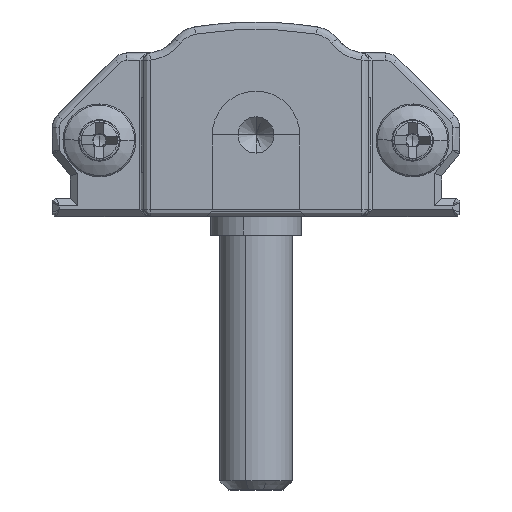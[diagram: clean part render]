
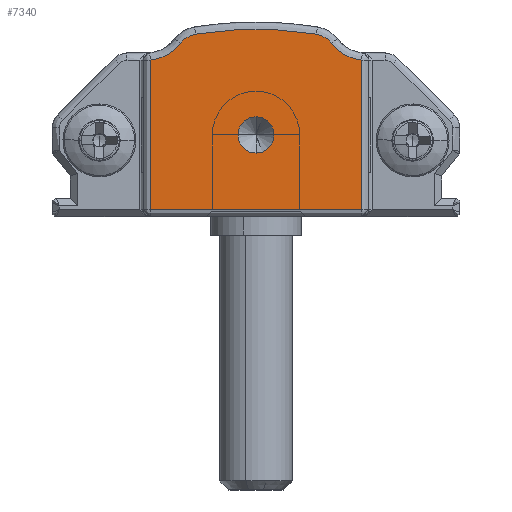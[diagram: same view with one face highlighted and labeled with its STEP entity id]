
A CAD part, front view. The second image highlights one B-rep face of the part: STEP entity #7340.
In plain terms, the highlighted planar face has unit normal (0, -1, 0).
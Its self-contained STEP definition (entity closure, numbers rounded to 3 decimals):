
#203 = CARTESIAN_POINT ( 'NONE',  ( 17., -15., 0.4 ) ) ;
#381 = AXIS2_PLACEMENT_3D ( 'NONE', #29165, #32129, #11331 ) ;
#566 = AXIS2_PLACEMENT_3D ( 'NONE', #21783, #16740, #19254 ) ;
#743 = AXIS2_PLACEMENT_3D ( 'NONE', #32193, #27082, #22465 ) ;
#1335 = VERTEX_POINT ( 'NONE', #25798 ) ;
#2115 = AXIS2_PLACEMENT_3D ( 'NONE', #8827, #3222, #24204 ) ;
#2383 = DIRECTION ( 'NONE',  ( 1., 0., 0. ) ) ;
#3222 = DIRECTION ( 'NONE',  ( 0., -1., 0. ) ) ;
#3618 = CARTESIAN_POINT ( 'NONE',  ( 5.4, -15., 0.4 ) ) ;
#3992 = DIRECTION ( 'NONE',  ( 0., 0., -1. ) ) ;
#4543 = ORIENTED_EDGE ( 'NONE', *, *, #23631, .T. ) ;
#5129 = VERTEX_POINT ( 'NONE', #26048 ) ;
#5169 = ORIENTED_EDGE ( 'NONE', *, *, #26118, .T. ) ;
#5241 = VERTEX_POINT ( 'NONE', #29507 ) ;
#5630 = VERTEX_POINT ( 'NONE', #25309 ) ;
#5657 = VERTEX_POINT ( 'NONE', #12761 ) ;
#6067 = CARTESIAN_POINT ( 'NONE',  ( 7.892, -15., 10.034 ) ) ;
#6555 = PLANE ( 'NONE',  #566 ) ;
#6722 = DIRECTION ( 'NONE',  ( 0., 0., -1. ) ) ;
#7339 = VERTEX_POINT ( 'NONE', #18949 ) ;
#7340 = ADVANCED_FACE ( 'NONE', ( #24261, #21941 ), #6555, .T. ) ;
#7541 = EDGE_LOOP ( 'NONE', ( #31732, #5169, #29491, #4543, #13462, #18692, #26622, #23929 ) ) ;
#8522 = CARTESIAN_POINT ( 'NONE',  ( 17., -15., 8.612 ) ) ;
#8827 = CARTESIAN_POINT ( 'NONE',  ( 8.1, -15., 8.75 ) ) ;
#10242 = AXIS2_PLACEMENT_3D ( 'NONE', #32141, #31820, #19574 ) ;
#10290 = EDGE_CURVE ( 'NONE', #14233, #1335, #24422, .T. ) ;
#10421 = CIRCLE ( 'NONE', #381, 2.4 ) ;
#10887 = LINE ( 'NONE', #3618, #24278 ) ;
#11179 = EDGE_LOOP ( 'NONE', ( #12784, #22969 ) ) ;
#11331 = DIRECTION ( 'NONE',  ( 0., 0., -1. ) ) ;
#11592 = EDGE_CURVE ( 'NONE', #29298, #28994, #17093, .T. ) ;
#11604 = VERTEX_POINT ( 'NONE', #32338 ) ;
#12017 = VECTOR ( 'NONE', #28694, 1000. ) ;
#12761 = CARTESIAN_POINT ( 'NONE',  ( 17., -15., 0.4 ) ) ;
#12784 = ORIENTED_EDGE ( 'NONE', *, *, #29772, .F. ) ;
#13462 = ORIENTED_EDGE ( 'NONE', *, *, #10290, .T. ) ;
#14233 = VERTEX_POINT ( 'NONE', #6067 ) ;
#14609 = CARTESIAN_POINT ( 'NONE',  ( 14.3, -15., 8.75 ) ) ;
#15033 = CIRCLE ( 'NONE', #743, 1. ) ;
#16012 = AXIS2_PLACEMENT_3D ( 'NONE', #30033, #17412, #6722 ) ;
#16740 = DIRECTION ( 'NONE',  ( 0., -1., 0. ) ) ;
#17051 = EDGE_CURVE ( 'NONE', #5129, #7339, #10887, .T. ) ;
#17093 = CIRCLE ( 'NONE', #16012, 1. ) ;
#17339 = EDGE_CURVE ( 'NONE', #5657, #5241, #28537, .T. ) ;
#17412 = DIRECTION ( 'NONE',  ( 0., -1., 0. ) ) ;
#18173 = CARTESIAN_POINT ( 'NONE',  ( 5.162, -15., 11. ) ) ;
#18692 = ORIENTED_EDGE ( 'NONE', *, *, #29637, .T. ) ;
#18949 = CARTESIAN_POINT ( 'NONE',  ( 5.4, -15., 0.4 ) ) ;
#19254 = DIRECTION ( 'NONE',  ( 0., 0., -1. ) ) ;
#19574 = DIRECTION ( 'NONE',  ( 0., 0., -1. ) ) ;
#20107 = VECTOR ( 'NONE', #2383, 1000. ) ;
#21110 = DIRECTION ( 'NONE',  ( 0., 0., -1. ) ) ;
#21435 = AXIS2_PLACEMENT_3D ( 'NONE', #18173, #28298, #32599 ) ;
#21783 = CARTESIAN_POINT ( 'NONE',  ( 22.15, -15., 3.606 ) ) ;
#21941 = FACE_BOUND ( 'NONE', #11179, .T. ) ;
#22465 = DIRECTION ( 'NONE',  ( 0., 0., -1. ) ) ;
#22523 = CIRCLE ( 'NONE', #21435, 2.4 ) ;
#22969 = ORIENTED_EDGE ( 'NONE', *, *, #11592, .F. ) ;
#23391 = CARTESIAN_POINT ( 'NONE',  ( 11.2, -15., 5.5 ) ) ;
#23428 = CARTESIAN_POINT ( 'NONE',  ( 11.2, -15., 3.5 ) ) ;
#23593 = AXIS2_PLACEMENT_3D ( 'NONE', #14609, #24496, #3992 ) ;
#23631 = EDGE_CURVE ( 'NONE', #11604, #14233, #24651, .T. ) ;
#23929 = ORIENTED_EDGE ( 'NONE', *, *, #32695, .T. ) ;
#24204 = DIRECTION ( 'NONE',  ( 0., 0., -1. ) ) ;
#24261 = FACE_OUTER_BOUND ( 'NONE', #7541, .T. ) ;
#24278 = VECTOR ( 'NONE', #21110, 1000. ) ;
#24422 = CIRCLE ( 'NONE', #2115, 1.3 ) ;
#24496 = DIRECTION ( 'NONE',  ( 0., -1., 0. ) ) ;
#24651 = CIRCLE ( 'NONE', #10242, 20.676 ) ;
#25309 = CARTESIAN_POINT ( 'NONE',  ( 15.332, -15., 9.541 ) ) ;
#25798 = CARTESIAN_POINT ( 'NONE',  ( 7.068, -15., 9.541 ) ) ;
#26048 = CARTESIAN_POINT ( 'NONE',  ( 5.4, -15., 8.612 ) ) ;
#26118 = EDGE_CURVE ( 'NONE', #5241, #5630, #10421, .T. ) ;
#26622 = ORIENTED_EDGE ( 'NONE', *, *, #17051, .T. ) ;
#27082 = DIRECTION ( 'NONE',  ( 0., -1., 0. ) ) ;
#28298 = DIRECTION ( 'NONE',  ( 0., 1., 0. ) ) ;
#28537 = LINE ( 'NONE', #8522, #12017 ) ;
#28694 = DIRECTION ( 'NONE',  ( 0., 0., 1. ) ) ;
#28994 = VERTEX_POINT ( 'NONE', #23428 ) ;
#29165 = CARTESIAN_POINT ( 'NONE',  ( 17.238, -15., 11. ) ) ;
#29298 = VERTEX_POINT ( 'NONE', #23391 ) ;
#29491 = ORIENTED_EDGE ( 'NONE', *, *, #30630, .T. ) ;
#29507 = CARTESIAN_POINT ( 'NONE',  ( 17., -15., 8.612 ) ) ;
#29637 = EDGE_CURVE ( 'NONE', #1335, #5129, #22523, .T. ) ;
#29772 = EDGE_CURVE ( 'NONE', #28994, #29298, #15033, .T. ) ;
#30033 = CARTESIAN_POINT ( 'NONE',  ( 11.2, -15., 4.5 ) ) ;
#30299 = LINE ( 'NONE', #203, #20107 ) ;
#30630 = EDGE_CURVE ( 'NONE', #5630, #11604, #32539, .T. ) ;
#31732 = ORIENTED_EDGE ( 'NONE', *, *, #17339, .T. ) ;
#31820 = DIRECTION ( 'NONE',  ( 0., -1., 0. ) ) ;
#32129 = DIRECTION ( 'NONE',  ( 0., 1., 0. ) ) ;
#32141 = CARTESIAN_POINT ( 'NONE',  ( 11.2, -15., -10.376 ) ) ;
#32193 = CARTESIAN_POINT ( 'NONE',  ( 11.2, -15., 4.5 ) ) ;
#32338 = CARTESIAN_POINT ( 'NONE',  ( 14.508, -15., 10.034 ) ) ;
#32539 = CIRCLE ( 'NONE', #23593, 1.3 ) ;
#32599 = DIRECTION ( 'NONE',  ( 0., 0., -1. ) ) ;
#32695 = EDGE_CURVE ( 'NONE', #7339, #5657, #30299, .T. ) ;
